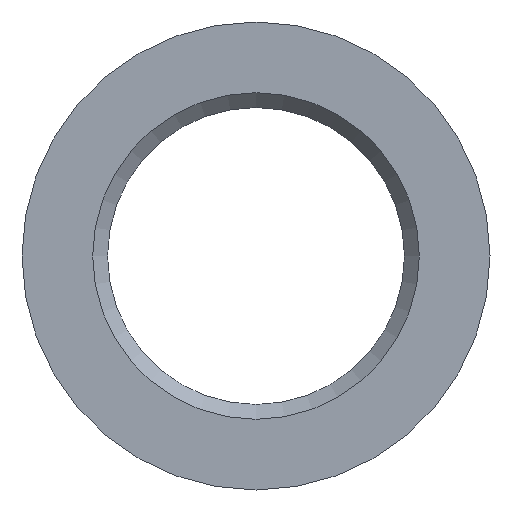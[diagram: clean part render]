
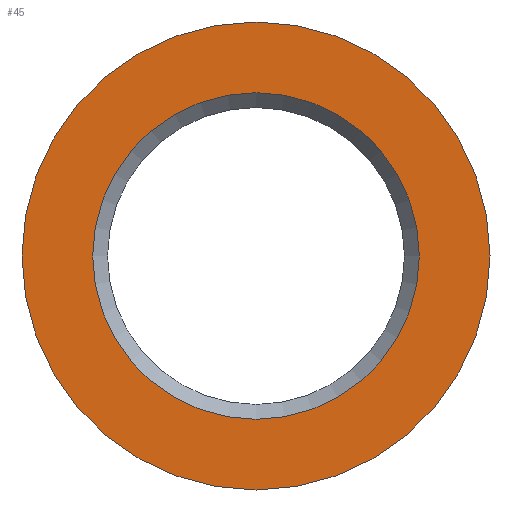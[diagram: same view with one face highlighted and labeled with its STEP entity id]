
A CAD part, front view. The second image highlights one B-rep face of the part: STEP entity #45.
In plain terms, the highlighted planar face has unit normal (0, -1, 0).
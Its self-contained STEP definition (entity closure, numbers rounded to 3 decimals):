
#45=ADVANCED_FACE('',(#72,#74),#76,.F.);
#72=FACE_BOUND('',#73,.T.);
#73=EDGE_LOOP('',(#223));
#74=FACE_BOUND('',#75,.T.);
#75=EDGE_LOOP('',(#224));
#76=PLANE('',#77);
#77=AXIS2_PLACEMENT_3D('',#78,#79,#80);
#78=CARTESIAN_POINT('',(0.,0.,0.));
#79=DIRECTION('',(0.,1.,0.));
#80=DIRECTION('',(-1.,0.,0.));
#223=ORIENTED_EDGE('',*,*,#307,.F.);
#224=ORIENTED_EDGE('',*,*,#308,.T.);
#307=EDGE_CURVE('',#362,#362,#363,.T.);
#308=EDGE_CURVE('',#364,#364,#365,.T.);
#362=VERTEX_POINT('',#467);
#363=CIRCLE('',#468,19.);
#364=VERTEX_POINT('',#472);
#365=CIRCLE('',#473,13.259);
#467=CARTESIAN_POINT('',(-19.,0.,0.));
#468=AXIS2_PLACEMENT_3D('',#469,#470,#471);
#469=CARTESIAN_POINT('',(0.,0.,0.));
#470=DIRECTION('',(0.,1.,0.));
#471=DIRECTION('',(-1.,0.,0.));
#472=CARTESIAN_POINT('',(-13.259,0.,0.));
#473=AXIS2_PLACEMENT_3D('',#474,#475,#476);
#474=CARTESIAN_POINT('',(0.,0.,0.));
#475=DIRECTION('',(0.,1.,0.));
#476=DIRECTION('',(-1.,0.,0.));
